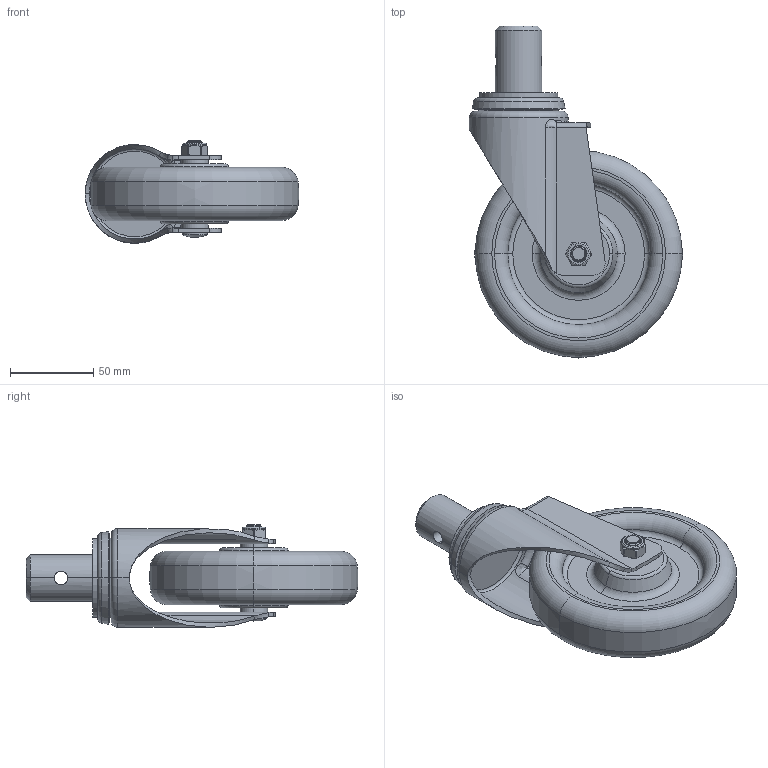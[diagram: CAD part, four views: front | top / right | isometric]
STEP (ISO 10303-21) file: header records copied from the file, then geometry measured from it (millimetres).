
FILE_DESCRIPTION((''),'2;1');
FILE_NAME('50155-505-86_ASM','2020-01-01T',('L'),(''),'PRO/ENGINEER BY PARAMETRIC TECHNOLOGY CORPORATION, 2010280','PRO/ENGINEER BY PARAMETRIC TECHNOLOGY CORPORATION, 2010280','');
FILE_SCHEMA(('CONFIG_CONTROL_DESIGN'));
Length unit declared in the file: millimetre
Products named in the file (5): 50155; 505-986; 570-33; 570-34; 50155-505-86_ASM
Assembly tree (4 placements, depth 2):
  50155-505-86_ASM
    50155
    505-986
    570-33
    570-34
Bounding box: 128.1 x 199.15 x 61.65 mm (x, y, z)
Volume: 377497.9 mm3; surface area: 77175.5 mm2
Topology: 4 solids, 4 shells, 200 faces, 469 edges, 285 vertices
Faces by surface type: cylinder 66, plane 45, torus 32, cone 28, bspline 27, sphere 2
Entity records: 10621 total; most frequent: CARTESIAN_POINT 6114, ORIENTED_EDGE 934, DIRECTION 891, EDGE_CURVE 467, AXIS2_PLACEMENT_3D 373, VERTEX_POINT 285, EDGE_LOOP 218, FACE_OUTER_BOUND 200
